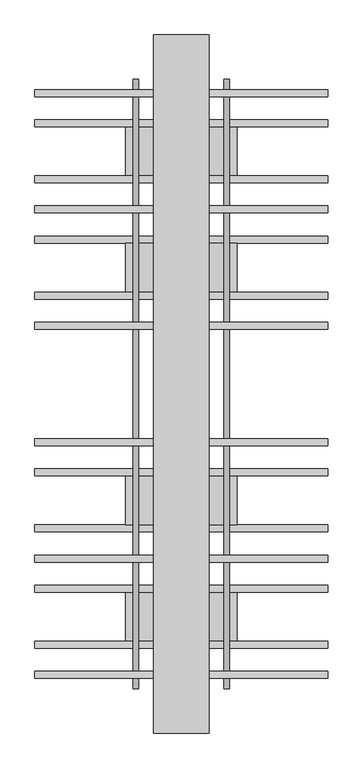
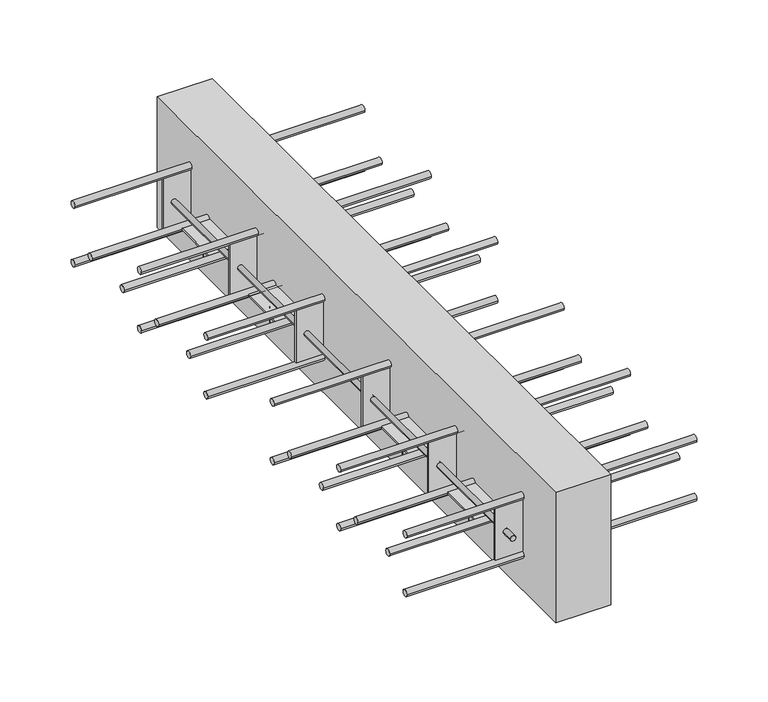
"""IFC4 building model written with IfcOpenShell, lengths in millimetres: proxy geometry, ACINOXplus_Typenreihe_Q : QE+ S4."""

from ifc_helpers import new_model, si_unit, point, frame, frame_2d, origin, place, context, project, spatial, polyline, circle_curve, trimmed, segment, composite_curve, outline, extrude, source, transform, mapped, element, save
from ifc_brep_helpers import plane_surface, cylinder_surface, advanced_brep


def generic_models_47a35a48(model_context):
    return source(origin(), model_context, "Body", "SolidModel", [
        extrude(outline(composite_curve([segment(trimmed(circle_curve(frame_2d((-373.3333333, -109.0)), 5.0), [point((-378.3333333, -109.0))], [point((-368.3333333, -109.0))], False, "CARTESIAN"), True, "CONTINUOUS"), segment(trimmed(circle_curve(frame_2d((-373.3333333, -109.0)), 5.0), [point((-368.3333333, -109.0))], [point((-378.3333333, -109.0))], False, "CARTESIAN"), True, "CONTINUOUS")], self_intersect=False)), frame((-210.0, 0.0, 0.0), z_axis=(1.0, 0.0, 0.0), x_axis=(0.0, 1.0, 0.0)), (0.0, 0.0, 1.0), 420.0),
        extrude(outline(composite_curve([segment(trimmed(circle_curve(frame_2d((-293.3333333, -109.0)), 5.0), [point((-298.3333333, -109.0))], [point((-288.3333333, -109.0))], False, "CARTESIAN"), True, "CONTINUOUS"), segment(trimmed(circle_curve(frame_2d((-293.3333333, -109.0)), 5.0), [point((-288.3333333, -109.0))], [point((-298.3333333, -109.0))], False, "CARTESIAN"), True, "CONTINUOUS")], self_intersect=False)), frame((-210.0, 0.0, 0.0), z_axis=(1.0, 0.0, 0.0), x_axis=(0.0, 1.0, 0.0)), (0.0, 0.0, 1.0), 420.0),
        advanced_brep(
        [(-69.0, -333.3333333, -137.0), (-61.0, -333.3333333, -137.0), (61.0, -333.3333333, -137.0), (69.0, -333.3333333, -137.0), (-61.0, -333.3333333, -110.5), (-69.0, -333.3333333, -110.5), (69.0, -333.3333333, -110.5), (61.0, -333.3333333, -110.5), (80.0, -298.3333333, -107.5), (-80.0, -298.3333333, -107.5), (-80.0, -368.3333333, -107.5), (80.0, -368.3333333, -107.5), (80.0, -298.3333333, -110.5), (80.0, -368.3333333, -110.5), (-80.0, -368.3333333, -110.5), (-80.0, -298.3333333, -110.5)],
        [
            (0, 1, circle_curve(frame((-65.0, -333.3333333, -137.0), z_axis=(0.0, 0.0, -1.0), x_axis=(1.0, 0.0, 0.0)), 4.0)),
            (1, 0, circle_curve(frame((-65.0, -333.3333333, -137.0), z_axis=(0.0, 0.0, -1.0), x_axis=(1.0, 0.0, 0.0)), 4.0)),
            (2, 3, circle_curve(frame((65.0, -333.3333333, -137.0), z_axis=(0.0, 0.0, -1.0), x_axis=(1.0, 0.0, 0.0)), 4.0)),
            (3, 2, circle_curve(frame((65.0, -333.3333333, -137.0), z_axis=(0.0, 0.0, -1.0), x_axis=(1.0, 0.0, 0.0)), 4.0)),
            (1, 4),
            (4, 5, circle_curve(frame((-65.0, -333.3333333, -110.5), z_axis=(0.0, 0.0, -1.0), x_axis=(1.0, 0.0, 0.0)), 4.0)),
            (5, 0),
            (5, 4, circle_curve(frame((-65.0, -333.3333333, -110.5), z_axis=(0.0, 0.0, -1.0), x_axis=(1.0, 0.0, 0.0)), 4.0)),
            (3, 6),
            (6, 7, circle_curve(frame((65.0, -333.3333333, -110.5), z_axis=(0.0, 0.0, -1.0), x_axis=(1.0, 0.0, 0.0)), 4.0)),
            (7, 2),
            (7, 6, circle_curve(frame((65.0, -333.3333333, -110.5), z_axis=(0.0, 0.0, -1.0), x_axis=(1.0, 0.0, 0.0)), 4.0)),
            (8, 9),
            (9, 10),
            (10, 11),
            (11, 8),
            (12, 13),
            (13, 14),
            (14, 15),
            (15, 12),
            (8, 12),
            (15, 9),
            (14, 10),
            (13, 11),
        ],
        [
            plane_surface(frame((-61.0, -333.3333333, -137.0), z_axis=(0.0, 0.0, -1.0), x_axis=(0.0, -1.0, 0.0))),
            cylinder_surface(frame((-65.0, -333.3333333, -137.0), z_axis=(0.0, 0.0, 1.0), x_axis=(1.0, 0.0, 0.0)), 4.0),
            cylinder_surface(frame((65.0, -333.3333333, -109.0), z_axis=(0.0, 0.0, 1.0), x_axis=(1.0, 0.0, 0.0)), 4.0),
            plane_surface(frame((-80.0, -298.3333333, -107.5), z_axis=(0.0, 0.0, 1.0), x_axis=(-1.0, 0.0, 0.0))),
            plane_surface(frame((-80.0, -298.3333333, -110.5), z_axis=(0.0, 0.0, -1.0), x_axis=(1.0, 0.0, 0.0))),
            plane_surface(frame((80.0, -298.3333333, -107.5), z_axis=(0.0, 1.0, 0.0), x_axis=(0.0, 0.0, -1.0))),
            plane_surface(frame((-80.0, -298.3333333, -107.5), z_axis=(-1.0, 0.0, 0.0), x_axis=(0.0, 0.0, -1.0))),
            plane_surface(frame((-80.0, -368.3333333, -107.5), z_axis=(0.0, -1.0, 0.0), x_axis=(0.0, 0.0, -1.0))),
            plane_surface(frame((80.0, -368.3333333, -107.5), z_axis=(1.0, 0.0, 0.0), x_axis=(0.0, 0.0, -1.0))),
        ],
        [
            (0, [[1, 2]]),
            (0, [[3, 4]]),
            (1, [[-2, 5, 6, 7]]),
            (1, [[-1, -7, 8, -5]]),
            (2, [[-4, 9, 10, 11]]),
            (2, [[-3, -11, 12, -9]]),
            (3, [[13, 14, 15, 16]]),
            (4, [[17, 18, 19, 20], [-6, -8], [-10, -12]]),
            (5, [[-13, 21, -20, 22]]),
            (6, [[-14, -22, -19, 23]]),
            (7, [[-15, -23, -18, 24]]),
            (8, [[-16, -24, -17, -21]]),
        ],
    ),
        extrude(outline(composite_curve([segment(trimmed(circle_curve(frame_2d((293.3333333, -109.0)), 5.0), [point((288.3333333, -109.0))], [point((298.3333333, -109.0))], False, "CARTESIAN"), True, "CONTINUOUS"), segment(trimmed(circle_curve(frame_2d((293.3333333, -109.0)), 5.0), [point((298.3333333, -109.0))], [point((288.3333333, -109.0))], False, "CARTESIAN"), True, "CONTINUOUS")], self_intersect=False)), frame((-210.0, 0.0, 0.0), z_axis=(1.0, 0.0, 0.0), x_axis=(0.0, 1.0, 0.0)), (0.0, 0.0, 1.0), 420.0),
        extrude(outline(composite_curve([segment(trimmed(circle_curve(frame_2d((373.3333333, -109.0)), 5.0), [point((368.3333333, -109.0))], [point((378.3333333, -109.0))], False, "CARTESIAN"), True, "CONTINUOUS"), segment(trimmed(circle_curve(frame_2d((373.3333333, -109.0)), 5.0), [point((378.3333333, -109.0))], [point((368.3333333, -109.0))], False, "CARTESIAN"), True, "CONTINUOUS")], self_intersect=False)), frame((-210.0, 0.0, 0.0), z_axis=(1.0, 0.0, 0.0), x_axis=(0.0, 1.0, 0.0)), (0.0, 0.0, 1.0), 420.0),
        advanced_brep(
        [(-69.0, 333.3333333, -137.0), (-61.0, 333.3333333, -137.0), (61.0, 333.3333333, -137.0), (69.0, 333.3333333, -137.0), (-61.0, 333.3333333, -110.5), (-69.0, 333.3333333, -110.5), (69.0, 333.3333333, -110.5), (61.0, 333.3333333, -110.5), (80.0, 368.3333333, -107.5), (-80.0, 368.3333333, -107.5), (-80.0, 298.3333333, -107.5), (80.0, 298.3333333, -107.5), (80.0, 368.3333333, -110.5), (80.0, 298.3333333, -110.5), (-80.0, 298.3333333, -110.5), (-80.0, 368.3333333, -110.5)],
        [
            (0, 1, circle_curve(frame((-65.0, 333.3333333, -137.0), z_axis=(0.0, 0.0, -1.0), x_axis=(1.0, 0.0, 0.0)), 4.0)),
            (1, 0, circle_curve(frame((-65.0, 333.3333333, -137.0), z_axis=(0.0, 0.0, -1.0), x_axis=(1.0, 0.0, 0.0)), 4.0)),
            (2, 3, circle_curve(frame((65.0, 333.3333333, -137.0), z_axis=(0.0, 0.0, -1.0), x_axis=(1.0, 0.0, 0.0)), 4.0)),
            (3, 2, circle_curve(frame((65.0, 333.3333333, -137.0), z_axis=(0.0, 0.0, -1.0), x_axis=(1.0, 0.0, 0.0)), 4.0)),
            (1, 4),
            (4, 5, circle_curve(frame((-65.0, 333.3333333, -110.5), z_axis=(0.0, 0.0, -1.0), x_axis=(1.0, 0.0, 0.0)), 4.0)),
            (5, 0),
            (5, 4, circle_curve(frame((-65.0, 333.3333333, -110.5), z_axis=(0.0, 0.0, -1.0), x_axis=(1.0, 0.0, 0.0)), 4.0)),
            (3, 6),
            (6, 7, circle_curve(frame((65.0, 333.3333333, -110.5), z_axis=(0.0, 0.0, -1.0), x_axis=(1.0, 0.0, 0.0)), 4.0)),
            (7, 2),
            (7, 6, circle_curve(frame((65.0, 333.3333333, -110.5), z_axis=(0.0, 0.0, -1.0), x_axis=(1.0, 0.0, 0.0)), 4.0)),
            (8, 9),
            (9, 10),
            (10, 11),
            (11, 8),
            (12, 13),
            (13, 14),
            (14, 15),
            (15, 12),
            (8, 12),
            (15, 9),
            (14, 10),
            (13, 11),
        ],
        [
            plane_surface(frame((-61.0, 333.3333333, -137.0), z_axis=(0.0, 0.0, -1.0), x_axis=(0.0, -1.0, 0.0))),
            cylinder_surface(frame((-65.0, 333.3333333, -137.0), z_axis=(0.0, 0.0, 1.0), x_axis=(1.0, 0.0, 0.0)), 4.0),
            cylinder_surface(frame((65.0, 333.3333333, -109.0), z_axis=(0.0, 0.0, 1.0), x_axis=(1.0, 0.0, 0.0)), 4.0),
            plane_surface(frame((-80.0, 368.3333333, -107.5), z_axis=(0.0, 0.0, 1.0), x_axis=(-1.0, 0.0, 0.0))),
            plane_surface(frame((-80.0, 368.3333333, -110.5), z_axis=(0.0, 0.0, -1.0), x_axis=(1.0, 0.0, 0.0))),
            plane_surface(frame((80.0, 368.3333333, -107.5), z_axis=(0.0, 1.0, 0.0), x_axis=(0.0, 0.0, -1.0))),
            plane_surface(frame((-80.0, 368.3333333, -107.5), z_axis=(-1.0, 0.0, 0.0), x_axis=(0.0, 0.0, -1.0))),
            plane_surface(frame((-80.0, 298.3333333, -107.5), z_axis=(0.0, -1.0, 0.0), x_axis=(0.0, 0.0, -1.0))),
            plane_surface(frame((80.0, 298.3333333, -107.5), z_axis=(1.0, 0.0, 0.0), x_axis=(0.0, 0.0, -1.0))),
        ],
        [
            (0, [[1, 2]]),
            (0, [[3, 4]]),
            (1, [[-2, 5, 6, 7]]),
            (1, [[-1, -7, 8, -5]]),
            (2, [[-4, 9, 10, 11]]),
            (2, [[-3, -11, 12, -9]]),
            (3, [[13, 14, 15, 16]]),
            (4, [[17, 18, 19, 20], [-6, -8], [-10, -12]]),
            (5, [[-13, 21, -20, 22]]),
            (6, [[-14, -22, -19, 23]]),
            (7, [[-15, -23, -18, 24]]),
            (8, [[-16, -24, -17, -21]]),
        ],
    ),
        extrude(outline(composite_curve([segment(trimmed(circle_curve(frame_2d((-206.6666667, -109.0)), 5.0), [point((-211.6666667, -109.0))], [point((-201.6666667, -109.0))], False, "CARTESIAN"), True, "CONTINUOUS"), segment(trimmed(circle_curve(frame_2d((-206.6666667, -109.0)), 5.0), [point((-201.6666667, -109.0))], [point((-211.6666667, -109.0))], False, "CARTESIAN"), True, "CONTINUOUS")], self_intersect=False)), frame((-210.0, 0.0, 0.0), z_axis=(1.0, 0.0, 0.0), x_axis=(0.0, 1.0, 0.0)), (0.0, 0.0, 1.0), 420.0),
        extrude(outline(composite_curve([segment(trimmed(circle_curve(frame_2d((-126.6666667, -109.0)), 5.0), [point((-131.6666667, -109.0))], [point((-121.6666667, -109.0))], False, "CARTESIAN"), True, "CONTINUOUS"), segment(trimmed(circle_curve(frame_2d((-126.6666667, -109.0)), 5.0), [point((-121.6666667, -109.0))], [point((-131.6666667, -109.0))], False, "CARTESIAN"), True, "CONTINUOUS")], self_intersect=False)), frame((-210.0, 0.0, 0.0), z_axis=(1.0, 0.0, 0.0), x_axis=(0.0, 1.0, 0.0)), (0.0, 0.0, 1.0), 420.0),
        advanced_brep(
        [(-69.0, -166.6666667, -137.0), (-61.0, -166.6666667, -137.0), (61.0, -166.6666667, -137.0), (69.0, -166.6666667, -137.0), (-61.0, -166.6666667, -110.5), (-69.0, -166.6666667, -110.5), (69.0, -166.6666667, -110.5), (61.0, -166.6666667, -110.5), (80.0, -131.6666667, -107.5), (-80.0, -131.6666667, -107.5), (-80.0, -201.6666667, -107.5), (80.0, -201.6666667, -107.5), (80.0, -131.6666667, -110.5), (80.0, -201.6666667, -110.5), (-80.0, -201.6666667, -110.5), (-80.0, -131.6666667, -110.5)],
        [
            (0, 1, circle_curve(frame((-65.0, -166.6666667, -137.0), z_axis=(0.0, 0.0, -1.0), x_axis=(1.0, 0.0, 0.0)), 4.0)),
            (1, 0, circle_curve(frame((-65.0, -166.6666667, -137.0), z_axis=(0.0, 0.0, -1.0), x_axis=(1.0, 0.0, 0.0)), 4.0)),
            (2, 3, circle_curve(frame((65.0, -166.6666667, -137.0), z_axis=(0.0, 0.0, -1.0), x_axis=(1.0, 0.0, 0.0)), 4.0)),
            (3, 2, circle_curve(frame((65.0, -166.6666667, -137.0), z_axis=(0.0, 0.0, -1.0), x_axis=(1.0, 0.0, 0.0)), 4.0)),
            (1, 4),
            (4, 5, circle_curve(frame((-65.0, -166.6666667, -110.5), z_axis=(0.0, 0.0, -1.0), x_axis=(1.0, 0.0, 0.0)), 4.0)),
            (5, 0),
            (5, 4, circle_curve(frame((-65.0, -166.6666667, -110.5), z_axis=(0.0, 0.0, -1.0), x_axis=(1.0, 0.0, 0.0)), 4.0)),
            (3, 6),
            (6, 7, circle_curve(frame((65.0, -166.6666667, -110.5), z_axis=(0.0, 0.0, -1.0), x_axis=(1.0, 0.0, 0.0)), 4.0)),
            (7, 2),
            (7, 6, circle_curve(frame((65.0, -166.6666667, -110.5), z_axis=(0.0, 0.0, -1.0), x_axis=(1.0, 0.0, 0.0)), 4.0)),
            (8, 9),
            (9, 10),
            (10, 11),
            (11, 8),
            (12, 13),
            (13, 14),
            (14, 15),
            (15, 12),
            (8, 12),
            (15, 9),
            (14, 10),
            (13, 11),
        ],
        [
            plane_surface(frame((-61.0, -166.6666667, -137.0), z_axis=(0.0, 0.0, -1.0), x_axis=(0.0, -1.0, 0.0))),
            cylinder_surface(frame((-65.0, -166.6666667, -137.0), z_axis=(0.0, 0.0, 1.0), x_axis=(1.0, 0.0, 0.0)), 4.0),
            cylinder_surface(frame((65.0, -166.6666667, -109.0), z_axis=(0.0, 0.0, 1.0), x_axis=(1.0, 0.0, 0.0)), 4.0),
            plane_surface(frame((-80.0, -131.6666667, -107.5), z_axis=(0.0, 0.0, 1.0), x_axis=(-1.0, 0.0, 0.0))),
            plane_surface(frame((-80.0, -131.6666667, -110.5), z_axis=(0.0, 0.0, -1.0), x_axis=(1.0, 0.0, 0.0))),
            plane_surface(frame((80.0, -131.6666667, -107.5), z_axis=(0.0, 1.0, 0.0), x_axis=(0.0, 0.0, -1.0))),
            plane_surface(frame((-80.0, -131.6666667, -107.5), z_axis=(-1.0, 0.0, 0.0), x_axis=(0.0, 0.0, -1.0))),
            plane_surface(frame((-80.0, -201.6666667, -107.5), z_axis=(0.0, -1.0, 0.0), x_axis=(0.0, 0.0, -1.0))),
            plane_surface(frame((80.0, -201.6666667, -107.5), z_axis=(1.0, 0.0, 0.0), x_axis=(0.0, 0.0, -1.0))),
        ],
        [
            (0, [[1, 2]]),
            (0, [[3, 4]]),
            (1, [[-2, 5, 6, 7]]),
            (1, [[-1, -7, 8, -5]]),
            (2, [[-4, 9, 10, 11]]),
            (2, [[-3, -11, 12, -9]]),
            (3, [[13, 14, 15, 16]]),
            (4, [[17, 18, 19, 20], [-6, -8], [-10, -12]]),
            (5, [[-13, 21, -20, 22]]),
            (6, [[-14, -22, -19, 23]]),
            (7, [[-15, -23, -18, 24]]),
            (8, [[-16, -24, -17, -21]]),
        ],
    ),
        extrude(outline(composite_curve([segment(trimmed(circle_curve(frame_2d((126.6666667, -109.0)), 5.0), [point((121.6666667, -109.0))], [point((131.6666667, -109.0))], False, "CARTESIAN"), True, "CONTINUOUS"), segment(trimmed(circle_curve(frame_2d((126.6666667, -109.0)), 5.0), [point((131.6666667, -109.0))], [point((121.6666667, -109.0))], False, "CARTESIAN"), True, "CONTINUOUS")], self_intersect=False)), frame((-210.0, 0.0, 0.0), z_axis=(1.0, 0.0, 0.0), x_axis=(0.0, 1.0, 0.0)), (0.0, 0.0, 1.0), 420.0),
        extrude(outline(composite_curve([segment(trimmed(circle_curve(frame_2d((206.6666667, -109.0)), 5.0), [point((201.6666667, -109.0))], [point((211.6666667, -109.0))], False, "CARTESIAN"), True, "CONTINUOUS"), segment(trimmed(circle_curve(frame_2d((206.6666667, -109.0)), 5.0), [point((211.6666667, -109.0))], [point((201.6666667, -109.0))], False, "CARTESIAN"), True, "CONTINUOUS")], self_intersect=False)), frame((-210.0, 0.0, 0.0), z_axis=(1.0, 0.0, 0.0), x_axis=(0.0, 1.0, 0.0)), (0.0, 0.0, 1.0), 420.0),
        advanced_brep(
        [(-69.0, 166.6666667, -137.0), (-61.0, 166.6666667, -137.0), (61.0, 166.6666667, -137.0), (69.0, 166.6666667, -137.0), (-61.0, 166.6666667, -110.5), (-69.0, 166.6666667, -110.5), (69.0, 166.6666667, -110.5), (61.0, 166.6666667, -110.5), (80.0, 201.6666667, -107.5), (-80.0, 201.6666667, -107.5), (-80.0, 131.6666667, -107.5), (80.0, 131.6666667, -107.5), (80.0, 201.6666667, -110.5), (80.0, 131.6666667, -110.5), (-80.0, 131.6666667, -110.5), (-80.0, 201.6666667, -110.5)],
        [
            (0, 1, circle_curve(frame((-65.0, 166.6666667, -137.0), z_axis=(0.0, 0.0, -1.0), x_axis=(1.0, 0.0, 0.0)), 4.0)),
            (1, 0, circle_curve(frame((-65.0, 166.6666667, -137.0), z_axis=(0.0, 0.0, -1.0), x_axis=(1.0, 0.0, 0.0)), 4.0)),
            (2, 3, circle_curve(frame((65.0, 166.6666667, -137.0), z_axis=(0.0, 0.0, -1.0), x_axis=(1.0, 0.0, 0.0)), 4.0)),
            (3, 2, circle_curve(frame((65.0, 166.6666667, -137.0), z_axis=(0.0, 0.0, -1.0), x_axis=(1.0, 0.0, 0.0)), 4.0)),
            (1, 4),
            (4, 5, circle_curve(frame((-65.0, 166.6666667, -110.5), z_axis=(0.0, 0.0, -1.0), x_axis=(1.0, 0.0, 0.0)), 4.0)),
            (5, 0),
            (5, 4, circle_curve(frame((-65.0, 166.6666667, -110.5), z_axis=(0.0, 0.0, -1.0), x_axis=(1.0, 0.0, 0.0)), 4.0)),
            (3, 6),
            (6, 7, circle_curve(frame((65.0, 166.6666667, -110.5), z_axis=(0.0, 0.0, -1.0), x_axis=(1.0, 0.0, 0.0)), 4.0)),
            (7, 2),
            (7, 6, circle_curve(frame((65.0, 166.6666667, -110.5), z_axis=(0.0, 0.0, -1.0), x_axis=(1.0, 0.0, 0.0)), 4.0)),
            (8, 9),
            (9, 10),
            (10, 11),
            (11, 8),
            (12, 13),
            (13, 14),
            (14, 15),
            (15, 12),
            (8, 12),
            (15, 9),
            (14, 10),
            (13, 11),
        ],
        [
            plane_surface(frame((-61.0, 166.6666667, -137.0), z_axis=(0.0, 0.0, -1.0), x_axis=(0.0, -1.0, 0.0))),
            cylinder_surface(frame((-65.0, 166.6666667, -137.0), z_axis=(0.0, 0.0, 1.0), x_axis=(1.0, 0.0, 0.0)), 4.0),
            cylinder_surface(frame((65.0, 166.6666667, -109.0), z_axis=(0.0, 0.0, 1.0), x_axis=(1.0, 0.0, 0.0)), 4.0),
            plane_surface(frame((-80.0, 201.6666667, -107.5), z_axis=(0.0, 0.0, 1.0), x_axis=(-1.0, 0.0, 0.0))),
            plane_surface(frame((-80.0, 201.6666667, -110.5), z_axis=(0.0, 0.0, -1.0), x_axis=(1.0, 0.0, 0.0))),
            plane_surface(frame((80.0, 201.6666667, -107.5), z_axis=(0.0, 1.0, 0.0), x_axis=(0.0, 0.0, -1.0))),
            plane_surface(frame((-80.0, 201.6666667, -107.5), z_axis=(-1.0, 0.0, 0.0), x_axis=(0.0, 0.0, -1.0))),
            plane_surface(frame((-80.0, 131.6666667, -107.5), z_axis=(0.0, -1.0, 0.0), x_axis=(0.0, 0.0, -1.0))),
            plane_surface(frame((80.0, 131.6666667, -107.5), z_axis=(1.0, 0.0, 0.0), x_axis=(0.0, 0.0, -1.0))),
        ],
        [
            (0, [[1, 2]]),
            (0, [[3, 4]]),
            (1, [[-2, 5, 6, 7]]),
            (1, [[-1, -7, 8, -5]]),
            (2, [[-4, 9, 10, 11]]),
            (2, [[-3, -11, 12, -9]]),
            (3, [[13, 14, 15, 16]]),
            (4, [[17, 18, 19, 20], [-6, -8], [-10, -12]]),
            (5, [[-13, 21, -20, 22]]),
            (6, [[-14, -22, -19, 23]]),
            (7, [[-15, -23, -18, 24]]),
            (8, [[-16, -24, -17, -21]]),
        ],
    ),
        extrude(outline(polyline([(40.0, 500.0), (40.0, -500.0), (-40.0, -500.0), (-40.0, 500.0), (40.0, 500.0)])), frame((0.0, 0.0, -200.0), z_axis=(0.0, 0.0, 1.0), x_axis=(1.0, 0.0, 0.0)), (0.0, 0.0, 1.0), 200.0),
        extrude(outline(polyline([(80.0, -248.5), (80.0, -251.5), (-80.0, -251.5), (-80.0, -248.5), (80.0, -248.5)])), frame((0.0, 0.0, -140.0), z_axis=(0.0, 0.0, 1.0), x_axis=(1.0, 0.0, 0.0)), (0.0, 0.0, 1.0), 80.0),
        extrude(outline(polyline([(80.0, -81.8333333), (80.0, -84.8333333), (-80.0, -84.8333333), (-80.0, -81.8333333), (80.0, -81.8333333)])), frame((0.0, 0.0, -140.0), z_axis=(0.0, 0.0, 1.0), x_axis=(1.0, 0.0, 0.0)), (0.0, 0.0, 1.0), 80.0),
        extrude(outline(polyline([(80.0, 84.8333333), (80.0, 81.8333333), (-80.0, 81.8333333), (-80.0, 84.8333333), (80.0, 84.8333333)])), frame((0.0, 0.0, -140.0), z_axis=(0.0, 0.0, 1.0), x_axis=(1.0, 0.0, 0.0)), (0.0, 0.0, 1.0), 80.0),
        extrude(outline(polyline([(80.0, 251.5), (80.0, 248.5), (-80.0, 248.5), (-80.0, 251.5), (80.0, 251.5)])), frame((0.0, 0.0, -140.0), z_axis=(0.0, 0.0, 1.0), x_axis=(1.0, 0.0, 0.0)), (0.0, 0.0, 1.0), 80.0),
        extrude(outline(polyline([(80.0, -415.1666667), (80.0, -418.1666667), (-80.0, -418.1666667), (-80.0, -415.1666667), (80.0, -415.1666667)])), frame((0.0, 0.0, -140.0), z_axis=(0.0, 0.0, 1.0), x_axis=(1.0, 0.0, 0.0)), (0.0, 0.0, 1.0), 80.0),
        extrude(outline(polyline([(80.0, 418.1666667), (80.0, 415.1666667), (-80.0, 415.1666667), (-80.0, 418.1666667), (80.0, 418.1666667)])), frame((0.0, 0.0, -140.0), z_axis=(0.0, 0.0, 1.0), x_axis=(1.0, 0.0, 0.0)), (0.0, 0.0, 1.0), 80.0),
        extrude(outline(composite_curve([segment(trimmed(circle_curve(frame_2d((-100.0, -65.0)), 4.0), [point((-100.0, -69.0))], [point((-100.0, -61.0))], False, "CARTESIAN"), True, "CONTINUOUS"), segment(trimmed(circle_curve(frame_2d((-100.0, -65.0)), 4.0), [point((-100.0, -61.0))], [point((-100.0, -69.0))], False, "CARTESIAN"), True, "CONTINUOUS")], self_intersect=False)), frame((0.0, -415.1666667, 0.0), z_axis=(0.0, 1.0, 0.0), x_axis=(0.0, 0.0, 1.0)), (0.0, 0.0, 1.0), 663.6666667),
        extrude(outline(composite_curve([segment(trimmed(circle_curve(frame_2d((-100.0, -65.0)), 4.0), [point((-100.0, -69.0))], [point((-100.0, -61.0))], False, "CARTESIAN"), True, "CONTINUOUS"), segment(trimmed(circle_curve(frame_2d((-100.0, -65.0)), 4.0), [point((-100.0, -61.0))], [point((-100.0, -69.0))], False, "CARTESIAN"), True, "CONTINUOUS")], self_intersect=False)), frame((0.0, 418.1666667, 0.0), z_axis=(0.0, 1.0, 0.0), x_axis=(0.0, 0.0, 1.0)), (0.0, 0.0, 1.0), 18.5),
        extrude(outline(composite_curve([segment(trimmed(circle_curve(frame_2d((-100.0, -65.0)), 4.0), [point((-100.0, -61.0))], [point((-100.0, -69.0))], False, "CARTESIAN"), True, "CONTINUOUS"), segment(trimmed(circle_curve(frame_2d((-100.0, -65.0)), 4.0), [point((-100.0, -69.0))], [point((-100.0, -61.0))], False, "CARTESIAN"), True, "CONTINUOUS")], self_intersect=False)), frame((0.0, -436.6666667, 0.0), z_axis=(0.0, 1.0, 0.0), x_axis=(0.0, 0.0, 1.0)), (0.0, 0.0, 1.0), 18.5),
        extrude(outline(composite_curve([segment(trimmed(circle_curve(frame_2d((-100.0, -65.0)), 4.0), [point((-100.0, -69.0))], [point((-100.0, -61.0))], False, "CARTESIAN"), True, "CONTINUOUS"), segment(trimmed(circle_curve(frame_2d((-100.0, -65.0)), 4.0), [point((-100.0, -61.0))], [point((-100.0, -69.0))], False, "CARTESIAN"), True, "CONTINUOUS")], self_intersect=False)), frame((0.0, 251.5, 0.0), z_axis=(0.0, 1.0, 0.0), x_axis=(0.0, 0.0, 1.0)), (0.0, 0.0, 1.0), 163.6666667),
        extrude(outline(composite_curve([segment(trimmed(circle_curve(frame_2d((-100.0, 65.0)), 4.0), [point((-100.0, 61.0))], [point((-100.0, 69.0))], False, "CARTESIAN"), True, "CONTINUOUS"), segment(trimmed(circle_curve(frame_2d((-100.0, 65.0)), 4.0), [point((-100.0, 69.0))], [point((-100.0, 61.0))], False, "CARTESIAN"), True, "CONTINUOUS")], self_intersect=False)), frame((0.0, -415.1666667, 0.0), z_axis=(0.0, 1.0, 0.0), x_axis=(0.0, 0.0, 1.0)), (0.0, 0.0, 1.0), 663.6666667),
        extrude(outline(composite_curve([segment(trimmed(circle_curve(frame_2d((-100.0, 65.0)), 4.0), [point((-100.0, 61.0))], [point((-100.0, 69.0))], False, "CARTESIAN"), True, "CONTINUOUS"), segment(trimmed(circle_curve(frame_2d((-100.0, 65.0)), 4.0), [point((-100.0, 69.0))], [point((-100.0, 61.0))], False, "CARTESIAN"), True, "CONTINUOUS")], self_intersect=False)), frame((0.0, 418.1666667, 0.0), z_axis=(0.0, 1.0, 0.0), x_axis=(0.0, 0.0, 1.0)), (0.0, 0.0, 1.0), 18.5),
        extrude(outline(composite_curve([segment(trimmed(circle_curve(frame_2d((-100.0, 65.0)), 4.0), [point((-100.0, 69.0))], [point((-100.0, 61.0))], False, "CARTESIAN"), True, "CONTINUOUS"), segment(trimmed(circle_curve(frame_2d((-100.0, 65.0)), 4.0), [point((-100.0, 61.0))], [point((-100.0, 69.0))], False, "CARTESIAN"), True, "CONTINUOUS")], self_intersect=False)), frame((0.0, -436.6666667, 0.0), z_axis=(0.0, 1.0, 0.0), x_axis=(0.0, 0.0, 1.0)), (0.0, 0.0, 1.0), 18.5),
        extrude(outline(composite_curve([segment(trimmed(circle_curve(frame_2d((-100.0, 65.0)), 4.0), [point((-100.0, 61.0))], [point((-100.0, 69.0))], False, "CARTESIAN"), True, "CONTINUOUS"), segment(trimmed(circle_curve(frame_2d((-100.0, 65.0)), 4.0), [point((-100.0, 69.0))], [point((-100.0, 61.0))], False, "CARTESIAN"), True, "CONTINUOUS")], self_intersect=False)), frame((0.0, 251.5, 0.0), z_axis=(0.0, 1.0, 0.0), x_axis=(0.0, 0.0, 1.0)), (0.0, 0.0, 1.0), 163.6666667),
        extrude(outline(composite_curve([segment(trimmed(circle_curve(frame_2d((83.3333333, -145.0)), 5.0), [point((78.3333333, -145.0))], [point((88.3333333, -145.0))], False, "CARTESIAN"), True, "CONTINUOUS"), segment(trimmed(circle_curve(frame_2d((83.3333333, -145.0)), 5.0), [point((88.3333333, -145.0))], [point((78.3333333, -145.0))], False, "CARTESIAN"), True, "CONTINUOUS")], self_intersect=False)), frame((-210.0, 0.0, 0.0), z_axis=(1.0, 0.0, 0.0), x_axis=(0.0, 1.0, 0.0)), (0.0, 0.0, 1.0), 420.0),
        extrude(outline(composite_curve([segment(trimmed(circle_curve(frame_2d((-83.3333333, -145.0)), 5.0), [point((-88.3333333, -145.0))], [point((-78.3333333, -145.0))], False, "CARTESIAN"), True, "CONTINUOUS"), segment(trimmed(circle_curve(frame_2d((-83.3333333, -145.0)), 5.0), [point((-78.3333333, -145.0))], [point((-88.3333333, -145.0))], False, "CARTESIAN"), True, "CONTINUOUS")], self_intersect=False)), frame((-210.0, 0.0, 0.0), z_axis=(1.0, 0.0, 0.0), x_axis=(0.0, 1.0, 0.0)), (0.0, 0.0, 1.0), 420.0),
        extrude(outline(composite_curve([segment(trimmed(circle_curve(frame_2d((250.0, -145.0)), 5.0), [point((245.0, -145.0))], [point((255.0, -145.0))], False, "CARTESIAN"), True, "CONTINUOUS"), segment(trimmed(circle_curve(frame_2d((250.0, -145.0)), 5.0), [point((255.0, -145.0))], [point((245.0, -145.0))], False, "CARTESIAN"), True, "CONTINUOUS")], self_intersect=False)), frame((-210.0, 0.0, 0.0), z_axis=(1.0, 0.0, 0.0), x_axis=(0.0, 1.0, 0.0)), (0.0, 0.0, 1.0), 420.0),
        extrude(outline(composite_curve([segment(trimmed(circle_curve(frame_2d((416.6666667, -145.0)), 5.0), [point((411.6666667, -145.0))], [point((421.6666667, -145.0))], False, "CARTESIAN"), True, "CONTINUOUS"), segment(trimmed(circle_curve(frame_2d((416.6666667, -145.0)), 5.0), [point((421.6666667, -145.0))], [point((411.6666667, -145.0))], False, "CARTESIAN"), True, "CONTINUOUS")], self_intersect=False)), frame((-210.0, 0.0, 0.0), z_axis=(1.0, 0.0, 0.0), x_axis=(0.0, 1.0, 0.0)), (0.0, 0.0, 1.0), 420.0),
        extrude(outline(composite_curve([segment(trimmed(circle_curve(frame_2d((-250.0, -145.0)), 5.0), [point((-255.0, -145.0))], [point((-245.0, -145.0))], False, "CARTESIAN"), True, "CONTINUOUS"), segment(trimmed(circle_curve(frame_2d((-250.0, -145.0)), 5.0), [point((-245.0, -145.0))], [point((-255.0, -145.0))], False, "CARTESIAN"), True, "CONTINUOUS")], self_intersect=False)), frame((-210.0, 0.0, 0.0), z_axis=(1.0, 0.0, 0.0), x_axis=(0.0, 1.0, 0.0)), (0.0, 0.0, 1.0), 420.0),
        extrude(outline(composite_curve([segment(trimmed(circle_curve(frame_2d((-416.6666667, -145.0)), 5.0), [point((-421.6666667, -145.0))], [point((-411.6666667, -145.0))], False, "CARTESIAN"), True, "CONTINUOUS"), segment(trimmed(circle_curve(frame_2d((-416.6666667, -145.0)), 5.0), [point((-411.6666667, -145.0))], [point((-421.6666667, -145.0))], False, "CARTESIAN"), True, "CONTINUOUS")], self_intersect=False)), frame((-210.0, 0.0, 0.0), z_axis=(1.0, 0.0, 0.0), x_axis=(0.0, 1.0, 0.0)), (0.0, 0.0, 1.0), 420.0),
        extrude(outline(composite_curve([segment(trimmed(circle_curve(frame_2d((83.3333333, -55.0)), 5.0), [point((78.3333333, -55.0))], [point((88.3333333, -55.0))], False, "CARTESIAN"), True, "CONTINUOUS"), segment(trimmed(circle_curve(frame_2d((83.3333333, -55.0)), 5.0), [point((88.3333333, -55.0))], [point((78.3333333, -55.0))], False, "CARTESIAN"), True, "CONTINUOUS")], self_intersect=False)), frame((-210.0, 0.0, 0.0), z_axis=(1.0, 0.0, 0.0), x_axis=(0.0, 1.0, 0.0)), (0.0, 0.0, 1.0), 420.0),
        extrude(outline(composite_curve([segment(trimmed(circle_curve(frame_2d((-83.3333333, -55.0)), 5.0), [point((-88.3333333, -55.0))], [point((-78.3333333, -55.0))], False, "CARTESIAN"), True, "CONTINUOUS"), segment(trimmed(circle_curve(frame_2d((-83.3333333, -55.0)), 5.0), [point((-78.3333333, -55.0))], [point((-88.3333333, -55.0))], False, "CARTESIAN"), True, "CONTINUOUS")], self_intersect=False)), frame((-210.0, 0.0, 0.0), z_axis=(1.0, 0.0, 0.0), x_axis=(0.0, 1.0, 0.0)), (0.0, 0.0, 1.0), 420.0),
        extrude(outline(composite_curve([segment(trimmed(circle_curve(frame_2d((250.0, -55.0)), 5.0), [point((245.0, -55.0))], [point((255.0, -55.0))], False, "CARTESIAN"), True, "CONTINUOUS"), segment(trimmed(circle_curve(frame_2d((250.0, -55.0)), 5.0), [point((255.0, -55.0))], [point((245.0, -55.0))], False, "CARTESIAN"), True, "CONTINUOUS")], self_intersect=False)), frame((-210.0, 0.0, 0.0), z_axis=(1.0, 0.0, 0.0), x_axis=(0.0, 1.0, 0.0)), (0.0, 0.0, 1.0), 420.0),
        extrude(outline(composite_curve([segment(trimmed(circle_curve(frame_2d((416.6666667, -55.0)), 5.0), [point((411.6666667, -55.0))], [point((421.6666667, -55.0))], False, "CARTESIAN"), True, "CONTINUOUS"), segment(trimmed(circle_curve(frame_2d((416.6666667, -55.0)), 5.0), [point((421.6666667, -55.0))], [point((411.6666667, -55.0))], False, "CARTESIAN"), True, "CONTINUOUS")], self_intersect=False)), frame((-210.0, 0.0, 0.0), z_axis=(1.0, 0.0, 0.0), x_axis=(0.0, 1.0, 0.0)), (0.0, 0.0, 1.0), 420.0),
        extrude(outline(composite_curve([segment(trimmed(circle_curve(frame_2d((-250.0, -55.0)), 5.0), [point((-255.0, -55.0))], [point((-245.0, -55.0))], False, "CARTESIAN"), True, "CONTINUOUS"), segment(trimmed(circle_curve(frame_2d((-250.0, -55.0)), 5.0), [point((-245.0, -55.0))], [point((-255.0, -55.0))], False, "CARTESIAN"), True, "CONTINUOUS")], self_intersect=False)), frame((-210.0, 0.0, 0.0), z_axis=(1.0, 0.0, 0.0), x_axis=(0.0, 1.0, 0.0)), (0.0, 0.0, 1.0), 420.0),
        extrude(outline(composite_curve([segment(trimmed(circle_curve(frame_2d((-416.6666667, -55.0)), 5.0), [point((-421.6666667, -55.0))], [point((-411.6666667, -55.0))], False, "CARTESIAN"), True, "CONTINUOUS"), segment(trimmed(circle_curve(frame_2d((-416.6666667, -55.0)), 5.0), [point((-411.6666667, -55.0))], [point((-421.6666667, -55.0))], False, "CARTESIAN"), True, "CONTINUOUS")], self_intersect=False)), frame((-210.0, 0.0, 0.0), z_axis=(1.0, 0.0, 0.0), x_axis=(0.0, 1.0, 0.0)), (0.0, 0.0, 1.0), 420.0),
    ])


if __name__ == "__main__":
    model = new_model("IFC4")
    model_context = context("Model", 3, world=origin())
    ifc_project = project(units=[si_unit("LENGTHUNIT", "METRE", prefix="MILLI")], contexts=[model_context])
    site = spatial("IfcSite", under=ifc_project)
    building = spatial("IfcBuilding", under=site)
    placement = place(None, origin())
    generic_models_shape = generic_models_47a35a48(model_context)
    element("IfcBuildingElementProxy", 1, Name="ACINOXplus_Typenreihe_Q : QE+ S4", ObjectType="ACINOXplus_Typenreihe_Q : QE+ S4", at=placement, inside=building, context=model_context, shape_type="MappedRepresentation", body=[
        mapped(generic_models_shape, transform((0.0, 0.0, 0.0), x_axis=(1.0, 0.0, 0.0), y_axis=(0.0, 1.0, 0.0), z_axis=(0.0, 0.0, 1.0))),
    ])
    save(model, "model.ifc")
